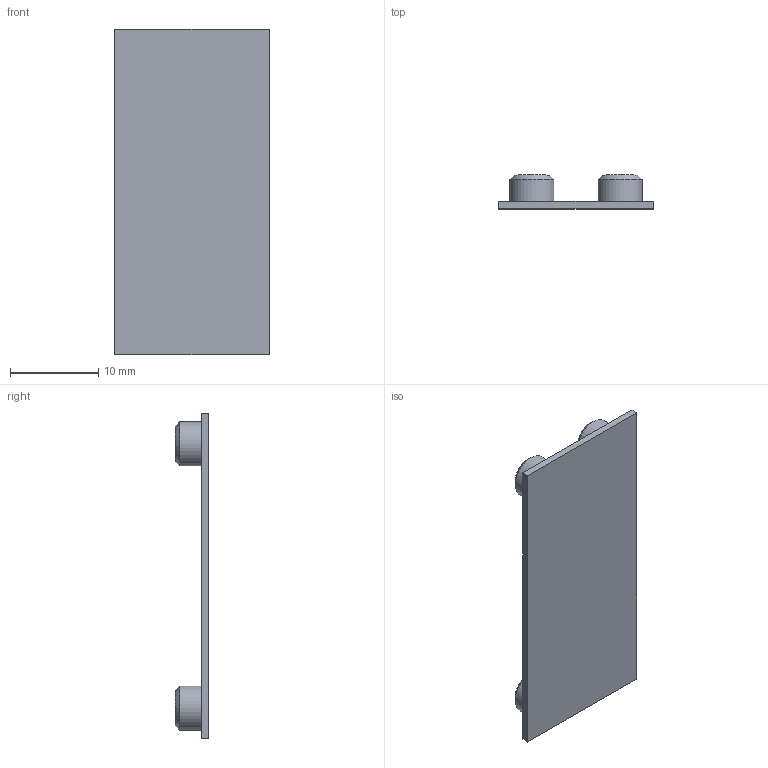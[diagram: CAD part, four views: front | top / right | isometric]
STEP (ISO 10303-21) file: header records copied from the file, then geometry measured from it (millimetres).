
FILE_DESCRIPTION(('FreeCAD Model'),'2;1');
FILE_NAME('Open CASCADE Shape Model','2026-01-25T17:12:01',(''),(''), 'Open CASCADE STEP processor 7.8','FreeCAD','Unknown');
FILE_SCHEMA(('AUTOMOTIVE_DESIGN { 1 0 10303 214 1 1 1 1 }'));
Length unit declared in the file: millimetre
Products named in the file (1): 2g4_antenna_plate
Bounding box: 17.5 x 3.8 x 37 mm (x, y, z)
Volume: 746.3 mm3; surface area: 1551 mm2
Topology: 1 solids, 1 shells, 18 faces, 32 edges, 20 vertices
Faces by surface type: plane 10, cylinder 4, cone 4
Full cylindrical faces by diameter (mm): 5 x4
Entity records: 458 total; most frequent: DIRECTION 82, CARTESIAN_POINT 71, ORIENTED_EDGE 64, EDGE_CURVE 32, AXIS2_PLACEMENT_3D 31, FACE_BOUND 22, EDGE_LOOP 22, VERTEX_POINT 20
